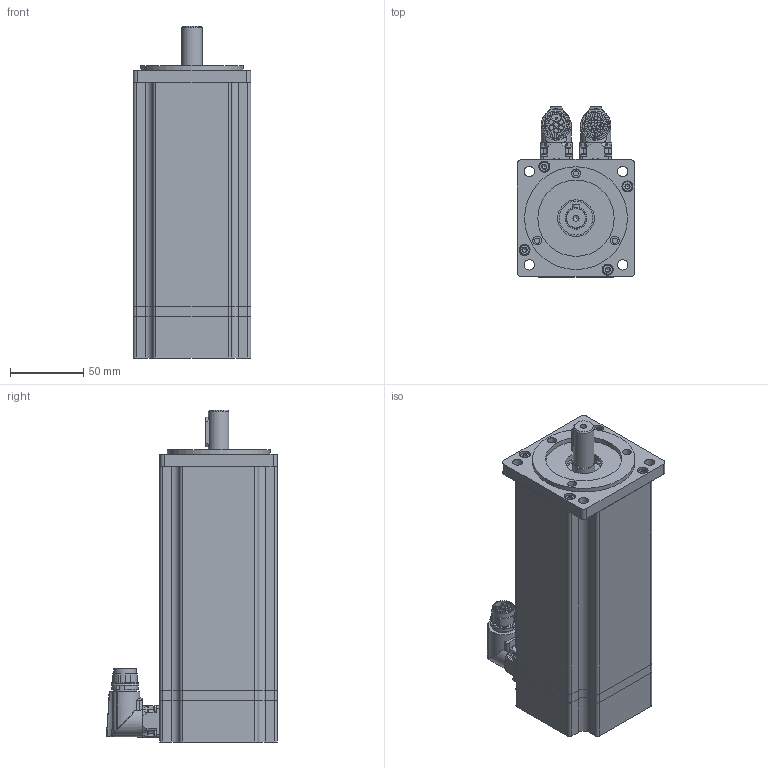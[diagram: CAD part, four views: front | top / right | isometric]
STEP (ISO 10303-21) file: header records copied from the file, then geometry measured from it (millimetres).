
FILE_DESCRIPTION(/* description */ (''),/* implementation_level */ '2;1');
FILE_NAME(/* name */ 'C:\Users\Public\Documents\Autodesk\Inventor LT 2014\Workspace\3D Sangalli Servomotori\DSM7\DSM7 - STEP\DSM7_3x_STEP\DSM7_33_x198.stp',/* time_stamp */ '2020-10-16T12:26:20+02:00',/* author */ ('marcor'),/* organization */ (''),/* preprocessor_version */ 'ST-DEVELOPER v15.2',/* originating_system */ 'Autodesk Inventor LT ',/* authorisation */ '');
FILE_SCHEMA (('AUTOMOTIVE_DESIGN { 1 0 10303 214 3 1 1 }'));
Products named in the file (1): DSM7_33_x198
Bounding box: 80 x 116.35 x 226.1 mm (x, y, z)
Volume: 1159733.1 mm3; surface area: 134485.3 mm2
Topology: 16 solids, 36 shells, 1536 faces, 3989 edges, 2600 vertices
Faces by surface type: plane 676, cylinder 540, cone 164, torus 96, bspline 52, sphere 8
Full cylindrical faces by diameter (mm): 1.3 x1, 2.013 x4, 2.1 x15, 2.224 x8, 2.5 x8, 2.7 x8, 3.2 x6, 3.242 x12, 3.5 x3, 4 x12, 4.134 x1, 4.5 x12, 4.8 x2, 5 x2, 6 x3, 7 x20, 7.5 x8, 11.7 x1, 13.4 x1, 14 x1, 14.2 x2, 14.95 x1, 15.2 x2, 15.54 x2, 16 x2, 16.8 x2, 17 x2, 19.7 x2, 23 x1, 25 x1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
Entity records: 50391 total; most frequent: CARTESIAN_POINT 13747, ORIENTED_EDGE 7190, DIRECTION 7098, EDGE_CURVE 3595, AXIS2_PLACEMENT_3D 2786, VERTEX_POINT 2493, EDGE_LOOP 1966, ADVANCED_FACE 1530
